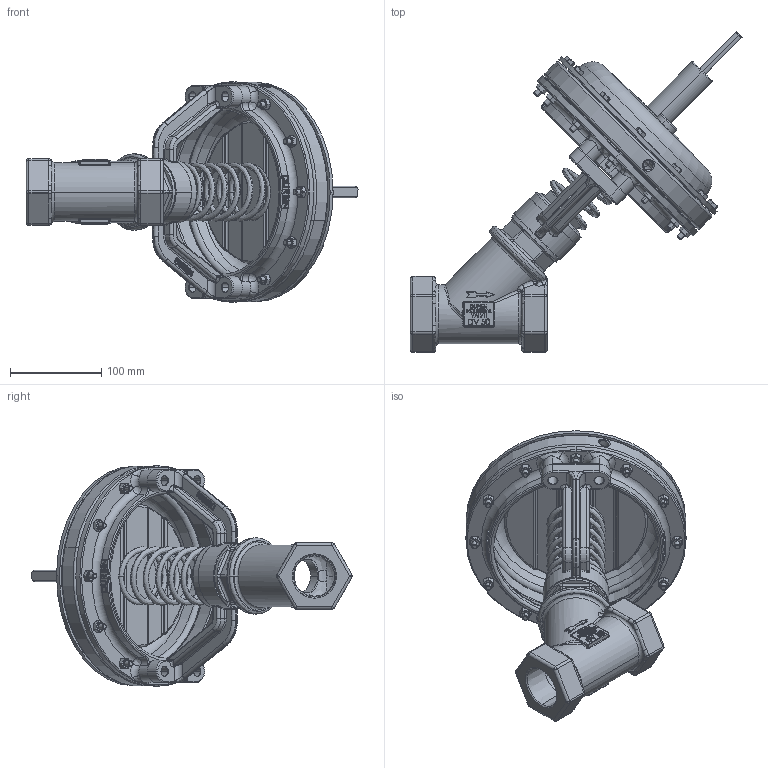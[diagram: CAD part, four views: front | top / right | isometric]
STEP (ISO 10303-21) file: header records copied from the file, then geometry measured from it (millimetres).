
FILE_DESCRIPTION (( 'STEP AP203' ), '1' );
FILE_NAME ('1.50 2W DB TOP 2 NO NPT DV-STEP.STEP', '2018-11-07T18:06:17', ( '' ), ( '' ), 'SwSTEP 2.0', 'SolidWorks 2012', '' );
FILE_SCHEMA (( 'CONFIG_CONTROL_DESIGN' ));
Length unit declared in the file: inch
Products named in the file (15): 1.50 2W DB TOP 2 NO NPT DV-STEP; D293-300DR; H060-03; H096-60; DV516-SS; C293-030D2R; D771; D770; C293-030D2M; DV533-AL; C893-022D-SS; DV531-SS; DV58-SS; DV59-SS; DV534-SS
Assembly tree (36 placements, depth 3):
  1.50 2W DB TOP 2 NO NPT DV-STEP
    DV534-SS
    DV59-SS
    DV58-SS
    DV531-SS
    C893-022D-SS
    DV533-AL
    C293-030D2R
      C293-030D2M
      D770
      D771
    DV516-SS
    H096-60  x12
    H060-03  x12
    D293-300DR
Bounding box: 364.62 x 352.27 x 241.81 mm (x, y, z)
Volume: 1795847.1 mm3; surface area: 546596.7 mm2
Topology: 35 solids, 35 shells, 4553 faces, 10698 edges, 6273 vertices
Faces by surface type: plane 1313, cone 1031, bspline 811, cylinder 767, sphere 332, torus 299
Entity records: 146620 total; most frequent: CARTESIAN_POINT 69505, ORIENTED_EDGE 16494, DIRECTION 14477, EDGE_CURVE 8247, AXIS2_PLACEMENT_3D 5793, VERTEX_POINT 5059, EDGE_LOOP 3630, ADVANCED_FACE 3365
